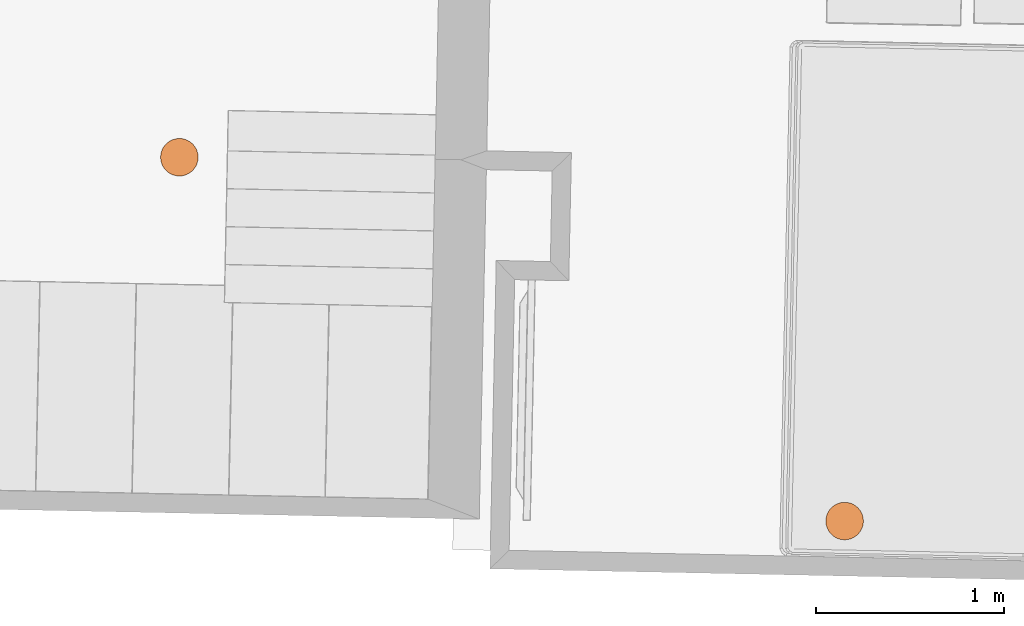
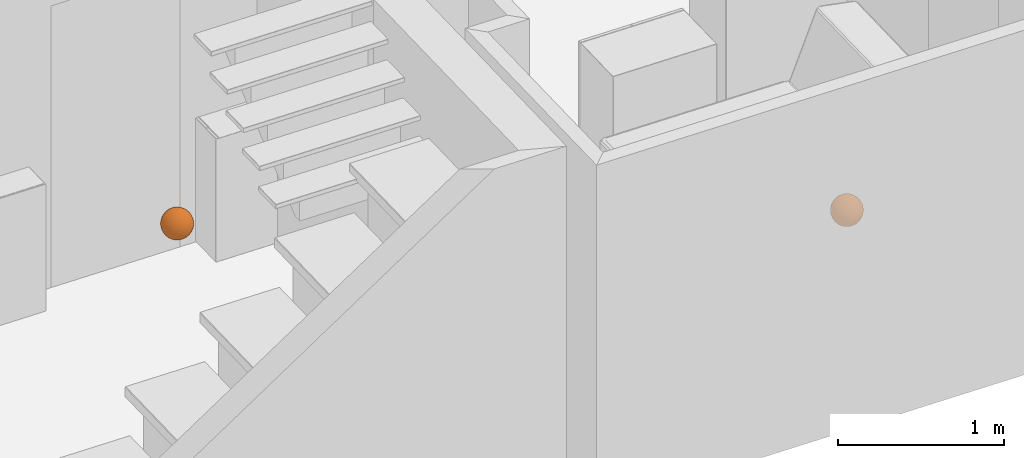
# One storey, part 8 of 8: 2 proxies.
"""IFC2X3 building model written with IfcOpenShell, lengths in metres."""

from ifc_helpers import new_model, entity, si_unit, frame, origin_with_axes, place, context, subcontext, project, spatial, element, save


model = new_model("IFC2X3")

# Units and contexts
model_context = context("Model", 3, precision=1e-05, world=origin_with_axes())
body_context = subcontext(model_context, "Body", "Model", "MODEL_VIEW")
ifc_project = project(units=[si_unit("AREAUNIT", "SQUARE_METRE"), si_unit("LENGTHUNIT", "METRE")], contexts=[model_context])

# Site, building, storey, space
site_placement = place(None, origin_with_axes())
site = spatial("IfcSite", under=ifc_project, at=site_placement, Name="Site", CompositionType="ELEMENT")
building_placement = place(site_placement, origin_with_axes())
building = spatial("IfcBuilding", under=site, at=building_placement, Name="Building", CompositionType="ELEMENT")
storey_placement = place(building_placement, frame((0.0, 0.0, 2.8867046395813), z_axis=(0.0, 0.0, 1.0), x_axis=(1.0, 0.0, 0.0)))
storey = spatial("IfcBuildingStorey", under=building, at=storey_placement, Name="Story 1", CompositionType="ELEMENT", Elevation=2.8867045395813)
space_1_placement = place(storey_placement, frame((-5.79603528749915, -0.942128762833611, 0.0), z_axis=(0.0, 0.0, 1.0), x_axis=(1.0, 0.0, 0.0)))
space_1 = spatial("IfcSpace", under=storey, at=space_1_placement, Name="006", CompositionType="ELEMENT", InteriorOrExteriorSpace="INTERNAL")

# Proxy
proxy_1_placement = place(space_1_placement, frame((5.85293537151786, -3.64669693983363, 1.39024476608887), z_axis=(0.0, 0.0, 1.0), x_axis=(1.0, 0.0, 0.0)))
element("IfcBuildingElementProxy", 1, at=proxy_1_placement, inside=space_1, Name="PointOfInterest", ObjectType="PointOfInterest", context=body_context, shape_type="CSG", body=[
    entity("IfcSphere", entity("IfcAxis2Placement3D", entity("IfcCartesianPoint", [0.0, 0.0, 0.0]), entity("IfcDirection", [0.0, 0.0, 1.0]), entity("IfcDirection", [1.0, 0.0, 0.0])), 0.1),
])

# Space
space_2_placement = place(storey_placement, frame((-5.69888454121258, -2.58056097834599, 0.0), z_axis=(0.0, 0.0, 1.0), x_axis=(1.0, 0.0, 0.0)))
space_2 = spatial("IfcSpace", under=storey, at=space_2_placement, Name="009", CompositionType="ELEMENT", InteriorOrExteriorSpace="INTERNAL")

# Proxy
proxy_2_placement = place(space_2_placement, frame((2.2152953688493, -0.0720600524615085, 1.35733871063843), z_axis=(0.0, 0.0, 1.0), x_axis=(1.0, 0.0, 0.0)))
element("IfcBuildingElementProxy", 2, at=proxy_2_placement, inside=space_2, Name="PointOfInterest", ObjectType="PointOfInterest", context=body_context, shape_type="CSG", body=[
    entity("IfcSphere", entity("IfcAxis2Placement3D", entity("IfcCartesianPoint", [0.0, 0.0, 0.0]), entity("IfcDirection", [0.0, 0.0, 1.0]), entity("IfcDirection", [1.0, 0.0, 0.0])), 0.1),
])

save(model, "model.ifc")
